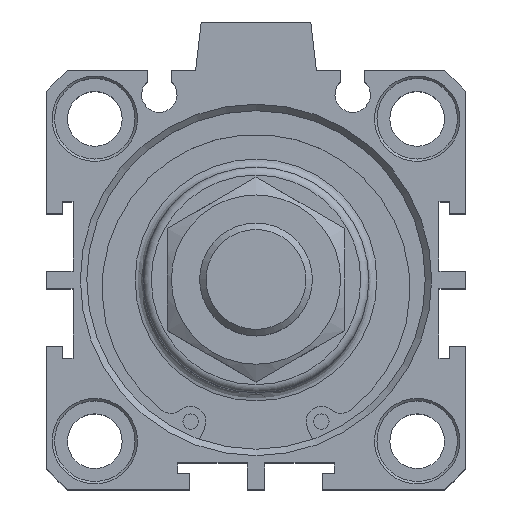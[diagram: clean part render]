
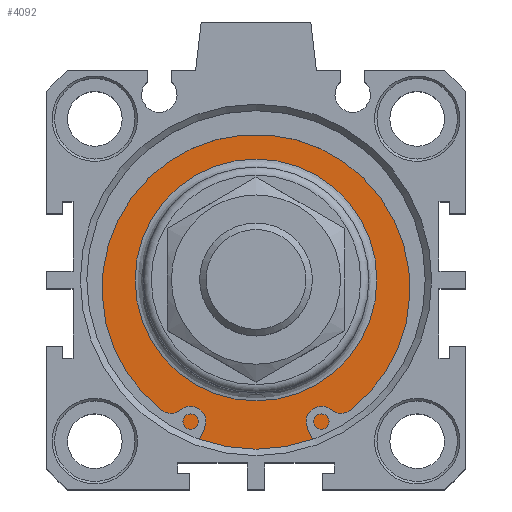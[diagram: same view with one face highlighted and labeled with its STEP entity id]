
A CAD part, top view. The second image highlights one B-rep face of the part: STEP entity #4092.
In plain terms, the highlighted planar face has unit normal (0, 0, 1).
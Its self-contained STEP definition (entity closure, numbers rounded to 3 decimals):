
#4041=CARTESIAN_POINT('',(-1.555,16.077,32.4));
#4042=VERTEX_POINT('',#4041);
#4043=CARTESIAN_POINT('',(-1.555,1.077,32.4));
#4044=DIRECTION('',(0.0,0.0,1.0));
#4045=DIRECTION('',(0.0,-1.0,0.0));
#4046=AXIS2_PLACEMENT_3D('',#4043,#4044,#4045);
#4047=CIRCLE('',#4046,15.);
#4048=EDGE_CURVE('',#4042,#4042,#4047,.T.);
#4073=CARTESIAN_POINT('',(-1.555,18.577,32.4));
#4074=DIRECTION('',(0.0,0.0,1.0));
#4075=DIRECTION('',(1.0,0.0,0.0));
#4076=AXIS2_PLACEMENT_3D('',#4073,#4074,#4075);
#4077=PLANE('',#4076);
#4078=CARTESIAN_POINT('',(-1.555,22.077,32.4));
#4079=VERTEX_POINT('',#4078);
#4080=CARTESIAN_POINT('',(-1.555,1.077,32.4));
#4081=DIRECTION('',(0.0,0.0,-1.0));
#4082=DIRECTION('',(0.0,1.0,0.0));
#4083=AXIS2_PLACEMENT_3D('',#4080,#4081,#4082);
#4084=CIRCLE('',#4083,21.);
#4085=EDGE_CURVE('',#4079,#4079,#4084,.T.);
#4086=ORIENTED_EDGE('',*,*,#4085,.F.);
#4087=EDGE_LOOP('',(#4086));
#4088=FACE_OUTER_BOUND('',#4087,.T.);
#4089=ORIENTED_EDGE('',*,*,#4048,.F.);
#4090=EDGE_LOOP('',(#4089));
#4091=FACE_BOUND('',#4090,.T.);
#4092=ADVANCED_FACE('',(#4088,#4091),#4077,.T.);
